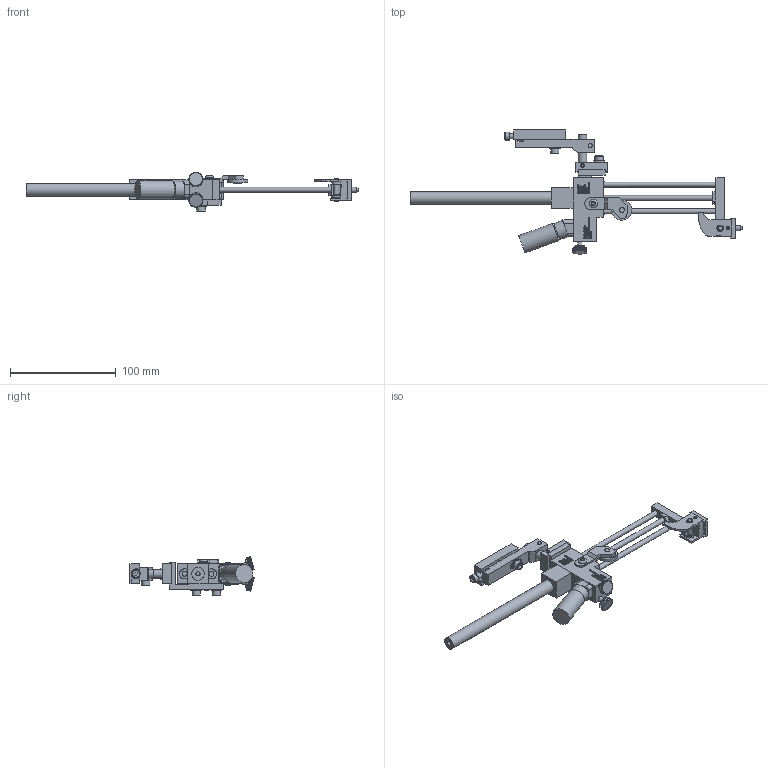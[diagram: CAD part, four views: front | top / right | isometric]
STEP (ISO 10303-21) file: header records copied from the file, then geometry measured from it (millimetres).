
FILE_DESCRIPTION((''),'2;1');
FILE_NAME('C:\Documents and Settings\Ron\My Documents\Inventor\Sprinter Drawing\Machines in Inventor\Model 44\Dot\1-eight\Ext Str\E2\Brkt\Ext\Model 44 E2 .125 Dia Dot Ext w brkt.stp','2009-01-22T14:45:57',('Ron'),(''),'Autodesk Inventor 2008','Autodesk Inventor 2008','');
FILE_SCHEMA(('AUTOMOTIVE_DESIGN { 1 0 10303 214 1 1 1 1 }'));
Length unit declared in the file: inch
Products named in the file (1): Model 44 E2 .125 Dia Dot Ext w  brkt
Bounding box: 313.45 x 117.12 x 36.82 mm (x, y, z)
Volume: 112671.4 mm3; surface area: 54862.7 mm2
Topology: 381 solids, 381 shells, 6207 faces, 15411 edges, 9533 vertices
Faces by surface type: plane 4367, bspline 1317, cylinder 470, cone 48, torus 5
Full cylindrical faces by diameter (mm): 3.175 x5, 3.302 x1, 3.962 x1, 4.064 x7, 4.166 x1, 4.699 x1, 4.75 x4, 4.775 x1, 4.826 x8, 5.144 x1, 5.156 x5, 5.207 x2, 5.41 x2, 6.096 x1, 6.274 x2, 7.239 x1, 7.62 x1, 7.925 x7, 7.938 x1, 8.128 x1, 9.017 x1, 9.525 x2, 10.312 x4, 10.922 x1, 11.036 x1, 11.938 x2, 14.478 x1, 16.256 x1, 17.272 x1, 19.05 x1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
Entity records: 197671 total; most frequent: CARTESIAN_POINT 54086, ORIENTED_EDGE 30378, DIRECTION 23619, EDGE_CURVE 15189, VECTOR 11395, LINE 11395, VERTEX_POINT 9468, EDGE_LOOP 6767
